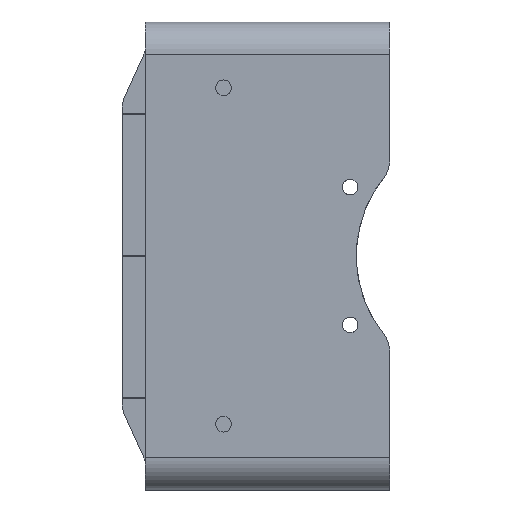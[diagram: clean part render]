
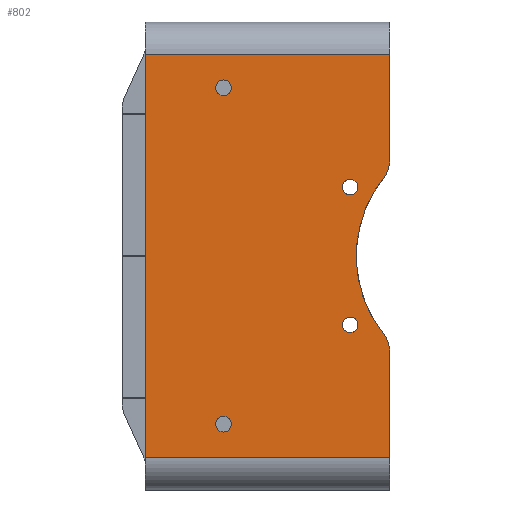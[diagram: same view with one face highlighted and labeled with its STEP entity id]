
A CAD part, left-side view. The second image highlights one B-rep face of the part: STEP entity #802.
In plain terms, the highlighted planar face has unit normal (-1, 0, 0).
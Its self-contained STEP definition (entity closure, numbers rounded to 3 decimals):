
#144=FACE_BOUND('',#2327,.T.);
#145=FACE_BOUND('',#2328,.T.);
#146=FACE_BOUND('',#2329,.T.);
#147=FACE_BOUND('',#2330,.T.);
#802=ADVANCED_FACE('',(#1516,#144,#145,#146,#147),#12584,.T.);
#1516=FACE_OUTER_BOUND('',#2326,.T.);
#2326=EDGE_LOOP('',(#6050,#6051,#6052,#6053,#6054,#6055,#6056,#6057));
#2327=EDGE_LOOP('',(#6058,#6059));
#2328=EDGE_LOOP('',(#6060,#6061));
#2329=EDGE_LOOP('',(#6062,#6063));
#2330=EDGE_LOOP('',(#6064,#6065));
#6050=ORIENTED_EDGE('',*,*,#8320,.F.);
#6051=ORIENTED_EDGE('',*,*,#8386,.T.);
#6052=ORIENTED_EDGE('',*,*,#8393,.T.);
#6053=ORIENTED_EDGE('',*,*,#8301,.T.);
#6054=ORIENTED_EDGE('',*,*,#8325,.T.);
#6055=ORIENTED_EDGE('',*,*,#8324,.T.);
#6056=ORIENTED_EDGE('',*,*,#8323,.T.);
#6057=ORIENTED_EDGE('',*,*,#8299,.T.);
#6058=ORIENTED_EDGE('',*,*,#8349,.T.);
#6059=ORIENTED_EDGE('',*,*,#8341,.T.);
#6060=ORIENTED_EDGE('',*,*,#8364,.T.);
#6061=ORIENTED_EDGE('',*,*,#8356,.T.);
#6062=ORIENTED_EDGE('',*,*,#8379,.T.);
#6063=ORIENTED_EDGE('',*,*,#8371,.T.);
#6064=ORIENTED_EDGE('',*,*,#8334,.T.);
#6065=ORIENTED_EDGE('',*,*,#8326,.T.);
#8299=EDGE_CURVE('',#11763,#11753,#10440,.T.);
#8301=EDGE_CURVE('',#11765,#11766,#10442,.T.);
#8320=EDGE_CURVE('',#11791,#11753,#8942,.T.);
#8323=EDGE_CURVE('',#11793,#11763,#10462,.T.);
#8324=EDGE_CURVE('',#11794,#11793,#10463,.T.);
#8325=EDGE_CURVE('',#11766,#11794,#10464,.T.);
#8326=EDGE_CURVE('',#11802,#11803,#8944,.T.);
#8334=EDGE_CURVE('',#11803,#11802,#8948,.T.);
#8341=EDGE_CURVE('',#11796,#11797,#8952,.T.);
#8349=EDGE_CURVE('',#11797,#11796,#8956,.T.);
#8356=EDGE_CURVE('',#11798,#11799,#8960,.T.);
#8364=EDGE_CURVE('',#11799,#11798,#8964,.T.);
#8371=EDGE_CURVE('',#11800,#11801,#8968,.T.);
#8379=EDGE_CURVE('',#11801,#11800,#8972,.T.);
#8386=EDGE_CURVE('',#11791,#11795,#8978,.T.);
#8393=EDGE_CURVE('',#11795,#11765,#8983,.T.);
#8942=(
BOUNDED_CURVE()
B_SPLINE_CURVE(2,(#21155,#21156,#21157),.UNSPECIFIED.,.F.,.F.)
B_SPLINE_CURVE_WITH_KNOTS((3,3),(-6.692,0.),.UNSPECIFIED.)
CURVE()
GEOMETRIC_REPRESENTATION_ITEM()
RATIONAL_B_SPLINE_CURVE((1.,0.945,1.))
REPRESENTATION_ITEM('')
);
#8944=(
BOUNDED_CURVE()
B_SPLINE_CURVE(2,(#21169,#21170,#21171,#21172,#21173),.UNSPECIFIED.,.F.,
 .F.)
B_SPLINE_CURVE_WITH_KNOTS((3,2,3),(0.,4.006,8.011),
 .UNSPECIFIED.)
CURVE()
GEOMETRIC_REPRESENTATION_ITEM()
RATIONAL_B_SPLINE_CURVE((1.,0.707,1.,0.707,1.))
REPRESENTATION_ITEM('')
);
#8948=(
BOUNDED_CURVE()
B_SPLINE_CURVE(2,(#21197,#21198,#21199,#21200,#21201),.UNSPECIFIED.,.F.,
 .F.)
B_SPLINE_CURVE_WITH_KNOTS((3,2,3),(0.,4.006,8.011),
 .UNSPECIFIED.)
CURVE()
GEOMETRIC_REPRESENTATION_ITEM()
RATIONAL_B_SPLINE_CURVE((1.,0.707,1.,0.707,1.))
REPRESENTATION_ITEM('')
);
#8952=(
BOUNDED_CURVE()
B_SPLINE_CURVE(2,(#21223,#21224,#21225,#21226,#21227),.UNSPECIFIED.,.F.,
 .F.)
B_SPLINE_CURVE_WITH_KNOTS((3,2,3),(0.,4.006,8.011),
 .UNSPECIFIED.)
CURVE()
GEOMETRIC_REPRESENTATION_ITEM()
RATIONAL_B_SPLINE_CURVE((1.,0.707,1.,0.707,1.))
REPRESENTATION_ITEM('')
);
#8956=(
BOUNDED_CURVE()
B_SPLINE_CURVE(2,(#21251,#21252,#21253,#21254,#21255),.UNSPECIFIED.,.F.,
 .F.)
B_SPLINE_CURVE_WITH_KNOTS((3,2,3),(0.,4.006,8.011),
 .UNSPECIFIED.)
CURVE()
GEOMETRIC_REPRESENTATION_ITEM()
RATIONAL_B_SPLINE_CURVE((1.,0.707,1.,0.707,1.))
REPRESENTATION_ITEM('')
);
#8960=(
BOUNDED_CURVE()
B_SPLINE_CURVE(2,(#21277,#21278,#21279,#21280,#21281),.UNSPECIFIED.,.F.,
 .F.)
B_SPLINE_CURVE_WITH_KNOTS((3,2,3),(0.,4.006,8.011),
 .UNSPECIFIED.)
CURVE()
GEOMETRIC_REPRESENTATION_ITEM()
RATIONAL_B_SPLINE_CURVE((1.,0.707,1.,0.707,1.))
REPRESENTATION_ITEM('')
);
#8964=(
BOUNDED_CURVE()
B_SPLINE_CURVE(2,(#21305,#21306,#21307,#21308,#21309),.UNSPECIFIED.,.F.,
 .F.)
B_SPLINE_CURVE_WITH_KNOTS((3,2,3),(0.,4.006,8.011),
 .UNSPECIFIED.)
CURVE()
GEOMETRIC_REPRESENTATION_ITEM()
RATIONAL_B_SPLINE_CURVE((1.,0.707,1.,0.707,1.))
REPRESENTATION_ITEM('')
);
#8968=(
BOUNDED_CURVE()
B_SPLINE_CURVE(2,(#21331,#21332,#21333,#21334,#21335),.UNSPECIFIED.,.F.,
 .F.)
B_SPLINE_CURVE_WITH_KNOTS((3,2,3),(0.,4.006,8.011),
 .UNSPECIFIED.)
CURVE()
GEOMETRIC_REPRESENTATION_ITEM()
RATIONAL_B_SPLINE_CURVE((1.,0.707,1.,0.707,1.))
REPRESENTATION_ITEM('')
);
#8972=(
BOUNDED_CURVE()
B_SPLINE_CURVE(2,(#21359,#21360,#21361,#21362,#21363),.UNSPECIFIED.,.F.,
 .F.)
B_SPLINE_CURVE_WITH_KNOTS((3,2,3),(0.,4.006,8.011),
 .UNSPECIFIED.)
CURVE()
GEOMETRIC_REPRESENTATION_ITEM()
RATIONAL_B_SPLINE_CURVE((1.,0.707,1.,0.707,1.))
REPRESENTATION_ITEM('')
);
#8978=(
BOUNDED_CURVE()
B_SPLINE_CURVE(2,(#21387,#21388,#21389),.UNSPECIFIED.,.F.,.F.)
B_SPLINE_CURVE_WITH_KNOTS((3,3),(0.,54.875),.UNSPECIFIED.)
CURVE()
GEOMETRIC_REPRESENTATION_ITEM()
RATIONAL_B_SPLINE_CURVE((1.,0.784,1.))
REPRESENTATION_ITEM('')
);
#8983=(
BOUNDED_CURVE()
B_SPLINE_CURVE(2,(#21406,#21407,#21408),.UNSPECIFIED.,.F.,.F.)
B_SPLINE_CURVE_WITH_KNOTS((3,3),(0.,6.692),.UNSPECIFIED.)
CURVE()
GEOMETRIC_REPRESENTATION_ITEM()
RATIONAL_B_SPLINE_CURVE((1.,0.945,1.))
REPRESENTATION_ITEM('')
);
#10440=B_SPLINE_CURVE_WITH_KNOTS('',1,(#21113,#21114),.UNSPECIFIED.,.F.,
 .F.,(2,2),(0.,34.361),.UNSPECIFIED.);
#10442=B_SPLINE_CURVE_WITH_KNOTS('',1,(#21117,#21118),.UNSPECIFIED.,.F.,
 .F.,(2,2),(0.,34.361),.UNSPECIFIED.);
#10462=B_SPLINE_CURVE_WITH_KNOTS('',1,(#21163,#21164),.UNSPECIFIED.,.F.,
 .F.,(2,2),(-80.,0.),.UNSPECIFIED.);
#10463=B_SPLINE_CURVE_WITH_KNOTS('',1,(#21165,#21166),.UNSPECIFIED.,.F.,
 .F.,(2,2),(-132.,0.),.UNSPECIFIED.);
#10464=B_SPLINE_CURVE_WITH_KNOTS('',1,(#21167,#21168),.UNSPECIFIED.,.F.,
 .F.,(2,2),(-80.,0.),.UNSPECIFIED.);
#11753=VERTEX_POINT('',#20749);
#11763=VERTEX_POINT('',#20759);
#11765=VERTEX_POINT('',#20761);
#11766=VERTEX_POINT('',#20762);
#11791=VERTEX_POINT('',#20787);
#11793=VERTEX_POINT('',#20789);
#11794=VERTEX_POINT('',#20790);
#11795=VERTEX_POINT('',#20791);
#11796=VERTEX_POINT('',#20792);
#11797=VERTEX_POINT('',#20793);
#11798=VERTEX_POINT('',#20794);
#11799=VERTEX_POINT('',#20795);
#11800=VERTEX_POINT('',#20796);
#11801=VERTEX_POINT('',#20797);
#11802=VERTEX_POINT('',#20798);
#11803=VERTEX_POINT('',#20799);
#12584=PLANE('',#13319);
#13319=AXIS2_PLACEMENT_3D('',#20491,#14022,$);
#14022=DIRECTION('',(-1.,0.,0.));
#20491=CARTESIAN_POINT('',(-145.5,21.88,-98.72));
#20749=CARTESIAN_POINT('',(-145.5,30.,-51.039));
#20759=CARTESIAN_POINT('',(-145.5,30.,-85.4));
#20761=CARTESIAN_POINT('',(-145.5,30.,12.239));
#20762=CARTESIAN_POINT('',(-145.5,30.,46.6));
#20787=CARTESIAN_POINT('',(-145.5,32.157,-44.835));
#20789=CARTESIAN_POINT('',(-145.5,110.,-85.4));
#20790=CARTESIAN_POINT('',(-145.5,110.,46.6));
#20791=CARTESIAN_POINT('',(-145.5,32.157,6.035));
#20792=CARTESIAN_POINT('',(-145.5,43.,0.55));
#20793=CARTESIAN_POINT('',(-145.5,43.,5.65));
#20794=CARTESIAN_POINT('',(-145.5,84.4,-76.95));
#20795=CARTESIAN_POINT('',(-145.5,84.4,-71.85));
#20796=CARTESIAN_POINT('',(-145.5,84.4,33.05));
#20797=CARTESIAN_POINT('',(-145.5,84.4,38.15));
#20798=CARTESIAN_POINT('',(-145.5,43.,-44.45));
#20799=CARTESIAN_POINT('',(-145.5,43.,-39.35));
#21113=CARTESIAN_POINT('',(-145.5,30.,-85.4));
#21114=CARTESIAN_POINT('',(-145.5,30.,-51.039));
#21117=CARTESIAN_POINT('',(-145.5,30.,12.239));
#21118=CARTESIAN_POINT('',(-145.5,30.,46.6));
#21155=CARTESIAN_POINT('',(-145.5,32.157,-44.835));
#21156=CARTESIAN_POINT('',(-145.5,30.,-47.562));
#21157=CARTESIAN_POINT('',(-145.5,30.,-51.039));
#21163=CARTESIAN_POINT('',(-145.5,110.,-85.4));
#21164=CARTESIAN_POINT('',(-145.5,30.,-85.4));
#21165=CARTESIAN_POINT('',(-145.5,110.,46.6));
#21166=CARTESIAN_POINT('',(-145.5,110.,-85.4));
#21167=CARTESIAN_POINT('',(-145.5,30.,46.6));
#21168=CARTESIAN_POINT('',(-145.5,110.,46.6));
#21169=CARTESIAN_POINT('',(-145.5,43.,-44.45));
#21170=CARTESIAN_POINT('',(-145.5,45.55,-44.45));
#21171=CARTESIAN_POINT('',(-145.5,45.55,-41.9));
#21172=CARTESIAN_POINT('',(-145.5,45.55,-39.35));
#21173=CARTESIAN_POINT('',(-145.5,43.,-39.35));
#21197=CARTESIAN_POINT('',(-145.5,43.,-39.35));
#21198=CARTESIAN_POINT('',(-145.5,40.45,-39.35));
#21199=CARTESIAN_POINT('',(-145.5,40.45,-41.9));
#21200=CARTESIAN_POINT('',(-145.5,40.45,-44.45));
#21201=CARTESIAN_POINT('',(-145.5,43.,-44.45));
#21223=CARTESIAN_POINT('',(-145.5,43.,0.55));
#21224=CARTESIAN_POINT('',(-145.5,45.55,0.55));
#21225=CARTESIAN_POINT('',(-145.5,45.55,3.1));
#21226=CARTESIAN_POINT('',(-145.5,45.55,5.65));
#21227=CARTESIAN_POINT('',(-145.5,43.,5.65));
#21251=CARTESIAN_POINT('',(-145.5,43.,5.65));
#21252=CARTESIAN_POINT('',(-145.5,40.45,5.65));
#21253=CARTESIAN_POINT('',(-145.5,40.45,3.1));
#21254=CARTESIAN_POINT('',(-145.5,40.45,0.55));
#21255=CARTESIAN_POINT('',(-145.5,43.,0.55));
#21277=CARTESIAN_POINT('',(-145.5,84.4,-76.95));
#21278=CARTESIAN_POINT('',(-145.5,86.95,-76.95));
#21279=CARTESIAN_POINT('',(-145.5,86.95,-74.4));
#21280=CARTESIAN_POINT('',(-145.5,86.95,-71.85));
#21281=CARTESIAN_POINT('',(-145.5,84.4,-71.85));
#21305=CARTESIAN_POINT('',(-145.5,84.4,-71.85));
#21306=CARTESIAN_POINT('',(-145.5,81.85,-71.85));
#21307=CARTESIAN_POINT('',(-145.5,81.85,-74.4));
#21308=CARTESIAN_POINT('',(-145.5,81.85,-76.95));
#21309=CARTESIAN_POINT('',(-145.5,84.4,-76.95));
#21331=CARTESIAN_POINT('',(-145.5,84.4,33.05));
#21332=CARTESIAN_POINT('',(-145.5,86.95,33.05));
#21333=CARTESIAN_POINT('',(-145.5,86.95,35.6));
#21334=CARTESIAN_POINT('',(-145.5,86.95,38.15));
#21335=CARTESIAN_POINT('',(-145.5,84.4,38.15));
#21359=CARTESIAN_POINT('',(-145.5,84.4,38.15));
#21360=CARTESIAN_POINT('',(-145.5,81.85,38.15));
#21361=CARTESIAN_POINT('',(-145.5,81.85,35.6));
#21362=CARTESIAN_POINT('',(-145.5,81.85,33.05));
#21363=CARTESIAN_POINT('',(-145.5,84.4,33.05));
#21387=CARTESIAN_POINT('',(-145.5,32.157,-44.835));
#21388=CARTESIAN_POINT('',(-145.5,52.275,-19.4));
#21389=CARTESIAN_POINT('',(-145.5,32.157,6.035));
#21406=CARTESIAN_POINT('',(-145.5,32.157,6.035));
#21407=CARTESIAN_POINT('',(-145.5,30.,8.762));
#21408=CARTESIAN_POINT('',(-145.5,30.,12.239));
